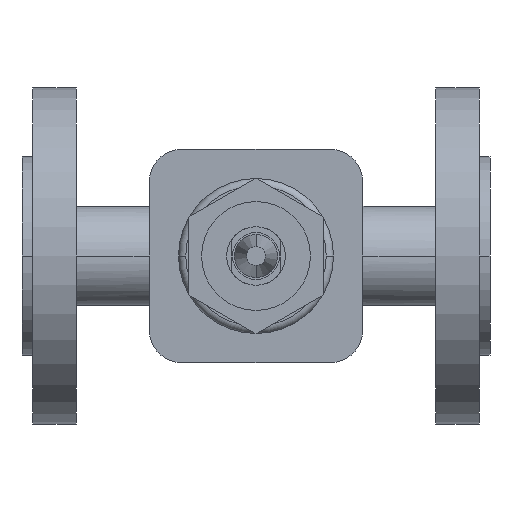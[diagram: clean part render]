
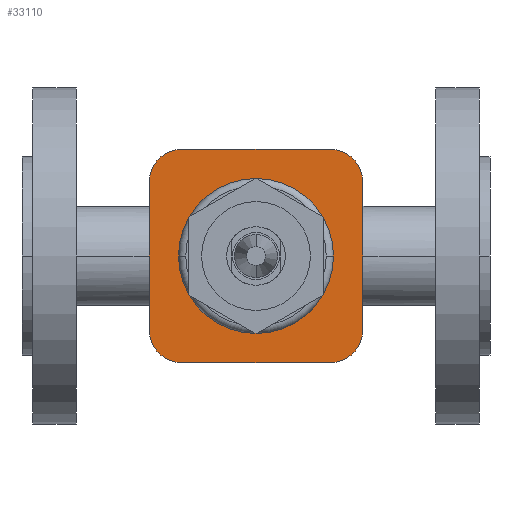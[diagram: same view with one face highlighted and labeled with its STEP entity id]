
A CAD part, front view. The second image highlights one B-rep face of the part: STEP entity #33110.
In plain terms, the highlighted planar face has unit normal (0, -1, 0).
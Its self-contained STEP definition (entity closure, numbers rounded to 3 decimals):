
#15020=CARTESIAN_POINT('',(53.5,-70.,0.));
#15030=VERTEX_POINT('',#15020);
#15080=CARTESIAN_POINT('',(80.,-70.,0.));
#15090=DIRECTION('',(0.,1.,0.));
#15100=DIRECTION('',(1.,0.,0.));
#15110=AXIS2_PLACEMENT_3D('',#15080,#15090,#15100);
#15120=CIRCLE('',#15110,26.5);
#15130=CARTESIAN_POINT('',(106.5,-70.,0.));
#15140=VERTEX_POINT('',#15130);
#15150=EDGE_CURVE('',#15030,#15140,#15120,.T.);
#31910=CARTESIAN_POINT('',(105.456,-70.,-36.456));
#31920=VERTEX_POINT('',#31910);
#32000=CARTESIAN_POINT('',(54.544,-70.,-36.456));
#32010=VERTEX_POINT('',#32000);
#32040=CARTESIAN_POINT('',(111.353,-70.,-36.456));
#32050=DIRECTION('',(1.,0.,0.));
#32060=VECTOR('',#32050,1.);
#32070=LINE('',#32040,#32060);
#32080=EDGE_CURVE('',#32010,#31920,#32070,.T.);
#32400=CARTESIAN_POINT('',(117.25,-70.,0.));
#32410=DIRECTION('',(0.,-1.,0.));
#32420=DIRECTION('',(-1.,0.,0.));
#32430=AXIS2_PLACEMENT_3D('',#32400,#32410,#32420);
#32440=PLANE('',#32430);
#32450=CARTESIAN_POINT('',(54.544,-70.,25.456));
#32460=DIRECTION('',(0.,-1.,0.));
#32470=DIRECTION('',(-1.,0.,0.));
#32480=AXIS2_PLACEMENT_3D('',#32450,#32460,#32470);
#32490=CIRCLE('',#32480,11.);
#32500=CARTESIAN_POINT('',(54.544,-70.,36.456));
#32510=VERTEX_POINT('',#32500);
#32520=CARTESIAN_POINT('',(43.544,-70.,25.456));
#32530=VERTEX_POINT('',#32520);
#32540=EDGE_CURVE('',#32510,#32530,#32490,.T.);
#32550=ORIENTED_EDGE('',*,*,#32540,.T.);
#32560=CARTESIAN_POINT('',(85.897,-70.,36.456));
#32570=DIRECTION('',(-1.,0.,0.));
#32580=VECTOR('',#32570,1.);
#32590=LINE('',#32560,#32580);
#32600=CARTESIAN_POINT('',(105.456,-70.,36.456));
#32610=VERTEX_POINT('',#32600);
#32620=EDGE_CURVE('',#32610,#32510,#32590,.T.);
#32630=ORIENTED_EDGE('',*,*,#32620,.T.);
#32640=CARTESIAN_POINT('',(105.456,-70.,25.456));
#32650=DIRECTION('',(0.,-1.,0.));
#32660=DIRECTION('',(0.,0.,1.));
#32670=AXIS2_PLACEMENT_3D('',#32640,#32650,#32660);
#32680=CIRCLE('',#32670,11.);
#32690=CARTESIAN_POINT('',(116.456,-70.,25.456));
#32700=VERTEX_POINT('',#32690);
#32710=EDGE_CURVE('',#32700,#32610,#32680,.T.);
#32720=ORIENTED_EDGE('',*,*,#32710,.T.);
#32730=CARTESIAN_POINT('',(116.456,-70.,12.728));
#32740=DIRECTION('',(0.,0.,1.));
#32750=VECTOR('',#32740,1.);
#32760=LINE('',#32730,#32750);
#32770=CARTESIAN_POINT('',(116.456,-70.,-25.456));
#32780=VERTEX_POINT('',#32770);
#32790=EDGE_CURVE('',#32780,#32700,#32760,.T.);
#32800=ORIENTED_EDGE('',*,*,#32790,.T.);
#32810=CARTESIAN_POINT('',(105.456,-70.,-25.456));
#32820=DIRECTION('',(0.,-1.,0.));
#32830=DIRECTION('',(1.,0.,0.));
#32840=AXIS2_PLACEMENT_3D('',#32810,#32820,#32830);
#32850=CIRCLE('',#32840,11.);
#32860=EDGE_CURVE('',#31920,#32780,#32850,.T.);
#32870=ORIENTED_EDGE('',*,*,#32860,.T.);
#32880=ORIENTED_EDGE('',*,*,#32080,.T.);
#32890=CARTESIAN_POINT('',(54.544,-70.,-25.456));
#32900=DIRECTION('',(0.,-1.,0.));
#32910=DIRECTION('',(0.,0.,-1.));
#32920=AXIS2_PLACEMENT_3D('',#32890,#32900,#32910);
#32930=CIRCLE('',#32920,11.);
#32940=CARTESIAN_POINT('',(43.544,-70.,-25.456));
#32950=VERTEX_POINT('',#32940);
#32960=EDGE_CURVE('',#32950,#32010,#32930,.T.);
#32970=ORIENTED_EDGE('',*,*,#32960,.T.);
#32980=CARTESIAN_POINT('',(43.544,-70.,-12.728));
#32990=DIRECTION('',(0.,0.,-1.));
#33000=VECTOR('',#32990,1.);
#33010=LINE('',#32980,#33000);
#33020=EDGE_CURVE('',#32530,#32950,#33010,.T.);
#33030=ORIENTED_EDGE('',*,*,#33020,.T.);
#33040=EDGE_LOOP('',(#33030,#32970,#32880,#32870,#32800,#32720,#32630,
#32550));
#33050=FACE_OUTER_BOUND('',#33040,.T.);
#33060=ORIENTED_EDGE('',*,*,#15150,.T.);
#33070=EDGE_CURVE('',#15140,#15030,#15120,.T.);
#33080=ORIENTED_EDGE('',*,*,#33070,.T.);
#33090=EDGE_LOOP('',(#33080,#33060));
#33100=FACE_BOUND('',#33090,.T.);
#33110=ADVANCED_FACE('',(#33050,#33100),#32440,.T.);
